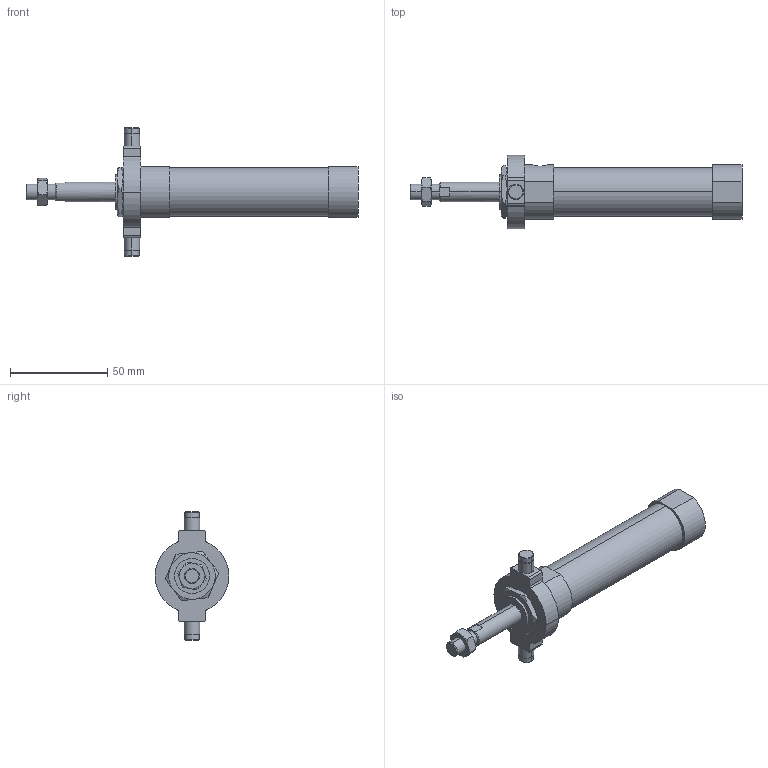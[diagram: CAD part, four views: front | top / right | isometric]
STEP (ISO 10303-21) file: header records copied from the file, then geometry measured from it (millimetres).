
FILE_DESCRIPTION (( 'STEP AP203' ), '1' );
FILE_NAME ('JGND0-20-25-T.STEP', '2016-08-04T02:04:51', ( '' ), ( '' ), 'SwSTEP 2.0', 'SolidWorks 2014', '' );
FILE_SCHEMA (( 'CONFIG_CONTROL_DESIGN' ));
Length unit declared in the file: millimetre
Products named in the file (5): J#2-20-T; JGND0-20-25-T; J#0-20-25(P)
Assembly tree (4 placements, depth 2):
  JGND0-20-25-T
    J#0-20-25(P)
    (unnamed)
    (unnamed)
    J#2-20-T
Bounding box: 171 x 38 x 66 mm (x, y, z)
Volume: 75257.2 mm3; surface area: 18626.7 mm2
Topology: 4 solids, 4 shells, 120 faces, 269 edges, 166 vertices
Faces by surface type: plane 43, cylinder 41, torus 24, cone 12
Entity records: 4146 total; most frequent: CARTESIAN_POINT 952, DIRECTION 585, ORIENTED_EDGE 538, EDGE_CURVE 269, AXIS2_PLACEMENT_3D 243, VERTEX_POINT 166, EDGE_LOOP 135, FACE_OUTER_BOUND 120
